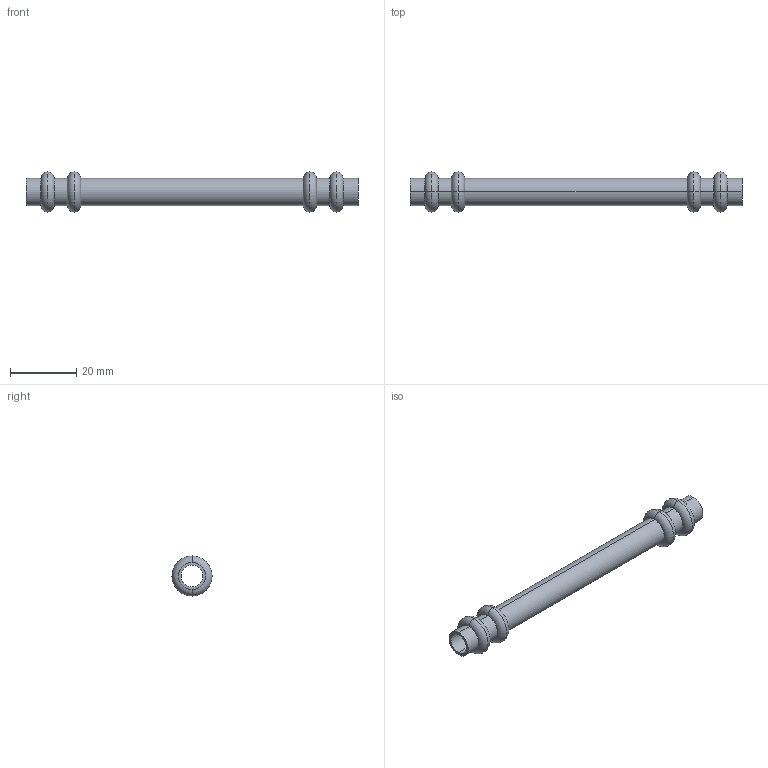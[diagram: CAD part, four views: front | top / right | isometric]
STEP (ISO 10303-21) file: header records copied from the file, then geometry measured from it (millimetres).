
FILE_DESCRIPTION(('starvars output'),'1');
FILE_NAME('cv20240422105417000012016.stp','10:54:17 2024/04/22',('Thomas Industrial Network Germany GmbH'),(' '),'Spatial InterOp 3D',' ',' ');
FILE_SCHEMA(('AUTOMOTIVE_DESIGN { 1 0 10303 214 3 1 1 }'));
Length unit declared in the file: millimetre
Products named in the file (1): 1
Bounding box: 100.08 x 12.1 x 12.1 mm (x, y, z)
Volume: 2239.3 mm3; surface area: 5468.8 mm2
Topology: 1 solids, 1 shells, 70 faces, 140 edges, 88 vertices
Faces by surface type: torus 32, cylinder 20, plane 18
Entity records: 2464 total; most frequent: DIRECTION 402, CARTESIAN_POINT 299, ORIENTED_EDGE 280, AXIS2_PLACEMENT_3D 191, EDGE_CURVE 140, CIRCLE 120, EDGE_LOOP 88, VERTEX_POINT 88
